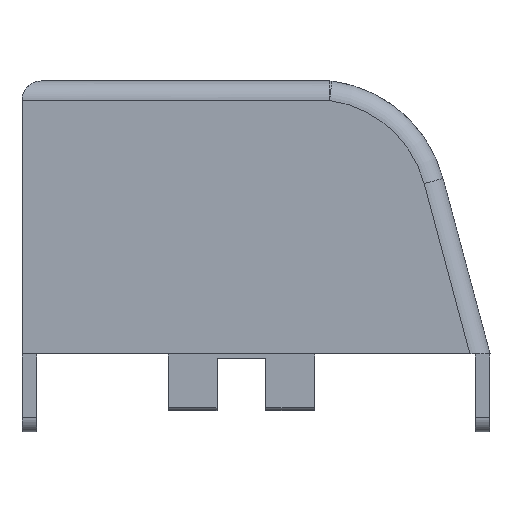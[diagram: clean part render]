
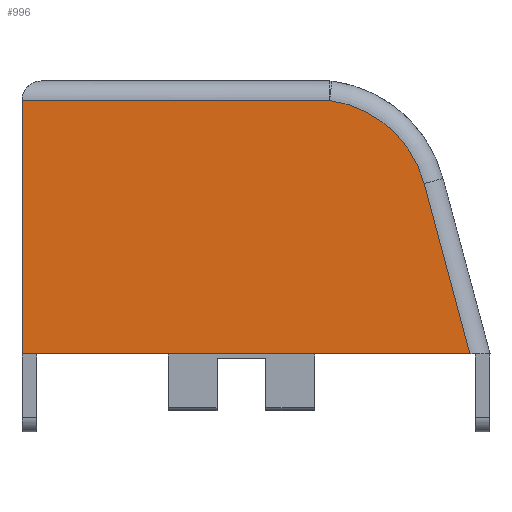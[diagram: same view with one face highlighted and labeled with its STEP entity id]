
A CAD part, left-side view. The second image highlights one B-rep face of the part: STEP entity #996.
In plain terms, the highlighted planar face has unit normal (-1, 0, 0).
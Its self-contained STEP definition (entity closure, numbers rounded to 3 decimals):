
#996=ADVANCED_FACE('',(#997),#1040,.T.);
#997=FACE_BOUND('',#998,.T.);
#998=EDGE_LOOP('',(#999,#1009,#1017,#1025,#1034));
#999=ORIENTED_EDGE('',*,*,#1000,.T.);
#1000=EDGE_CURVE('',#1001,#1003,#1005,.F.);
#1001=VERTEX_POINT('',#1002);
#1002=CARTESIAN_POINT('',(0.0,0.,26.0));
#1003=VERTEX_POINT('',#1004);
#1004=CARTESIAN_POINT('',(0.0,0.0,0.0));
#1005=LINE('',#1006,#1007);
#1006=CARTESIAN_POINT('',(0.0,0.0,0.0));
#1007=VECTOR('',#1008,1.0);
#1008=DIRECTION('',(0.0,0.,1.0));
#1009=ORIENTED_EDGE('',*,*,#1010,.T.);
#1010=EDGE_CURVE('',#1003,#1011,#1013,.T.);
#1011=VERTEX_POINT('',#1012);
#1012=CARTESIAN_POINT('',(0.,-45.929,0.));
#1013=LINE('',#1014,#1015);
#1014=CARTESIAN_POINT('',(0.0,0.0,0.0));
#1015=VECTOR('',#1016,1.0);
#1016=DIRECTION('',(0.0,-1.0,0.));
#1017=ORIENTED_EDGE('',*,*,#1018,.T.);
#1018=EDGE_CURVE('',#1011,#1019,#1021,.F.);
#1019=VERTEX_POINT('',#1020);
#1020=CARTESIAN_POINT('',(0.0,-41.245,17.482));
#1021=LINE('',#1022,#1023);
#1022=CARTESIAN_POINT('',(0.,-41.245,17.482));
#1023=VECTOR('',#1024,1.0);
#1024=DIRECTION('',(0.0,-0.259,-0.966));
#1025=ORIENTED_EDGE('',*,*,#1026,.T.);
#1026=EDGE_CURVE('',#1019,#1027,#1029,.F.);
#1027=VERTEX_POINT('',#1028);
#1028=CARTESIAN_POINT('',(0.0,-31.536,26.0));
#1029=CIRCLE('',#1030,11.627);
#1030=AXIS2_PLACEMENT_3D('',#1031,#1032,#1033);
#1031=CARTESIAN_POINT('',(0.0,-30.014,14.473));
#1032=DIRECTION('',(1.0,0.0,0.0));
#1033=DIRECTION('',(0.0,-0.121,0.993));
#1034=ORIENTED_EDGE('',*,*,#1035,.T.);
#1035=EDGE_CURVE('',#1027,#1001,#1036,.F.);
#1036=LINE('',#1037,#1038);
#1037=CARTESIAN_POINT('',(0.,0.,26.0));
#1038=VECTOR('',#1039,1.0);
#1039=DIRECTION('',(0.0,-1.0,0.));
#1040=PLANE('',#1041);
#1041=AXIS2_PLACEMENT_3D('',#1042,#1043,#1044);
#1042=CARTESIAN_POINT('',(0.0,0.0,0.0));
#1043=DIRECTION('',(-1.0,0.0,0.0));
#1044=DIRECTION('',(0.0,0.,1.0));
